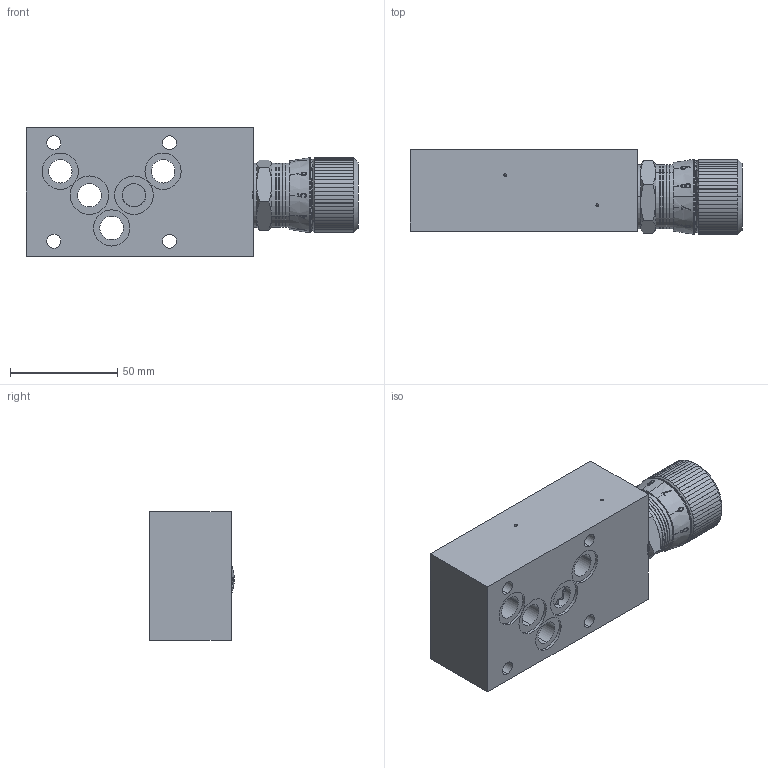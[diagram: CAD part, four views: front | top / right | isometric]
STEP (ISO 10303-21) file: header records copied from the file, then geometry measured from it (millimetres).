
FILE_DESCRIPTION (( 'STEP AP214' ), '1' );
FILE_NAME ('AURDB10.STEP', '2017-04-12T14:04:56', ( '' ), ( '' ), 'SwSTEP 2.0', 'SolidWorks 2016', '' );
FILE_SCHEMA (( 'AUTOMOTIVE_DESIGN' ));
Length unit declared in the file: millimetre
Products named in the file (1): AURDB10
Bounding box: 155 x 39.49 x 60 mm (x, y, z)
Volume: 260955.9 mm3; surface area: 40233.6 mm2
Topology: 1 solids, 2 shells, 913 faces, 2545 edges, 1662 vertices
Faces by surface type: plane 560, cylinder 146, bspline 118, cone 73, torus 16
Entity records: 53660 total; most frequent: CARTESIAN_POINT 22141, ORIENTED_EDGE 5070, DIRECTION 3638, EDGE_CURVE 2535, VERTEX_POINT 1662, AXIS2_PLACEMENT_3D 1361, B_SPLINE_CURVE_WITH_KNOTS 1024, EDGE_LOOP 967
